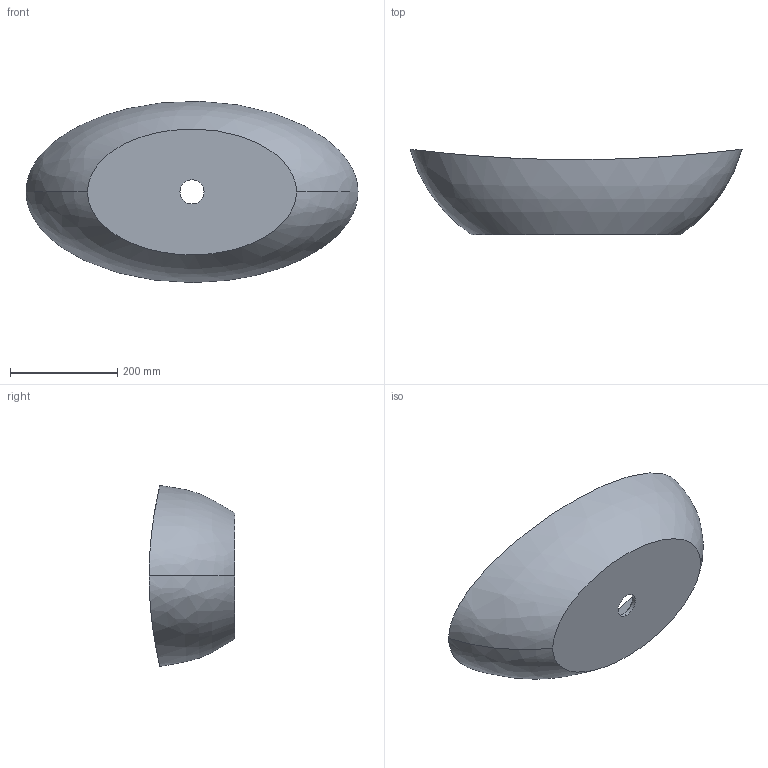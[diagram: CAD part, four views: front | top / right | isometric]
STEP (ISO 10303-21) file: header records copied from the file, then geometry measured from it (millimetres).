
FILE_DESCRIPTION (( 'STEP AP203' ), '1' );
FILE_NAME ('PW1.STEP', '2015-09-25T03:49:36', ( '旮僅薊襠http://www.deepbbs.org' ), ( 'http://www.deepbbs.org' ), 'SwSTEP 2.0', 'SolidWorks 2014', '' );
FILE_SCHEMA (( 'CONFIG_CONTROL_DESIGN' ));
Length unit declared in the file: millimetre
Products named in the file (1): PW1
Bounding box: 620 x 160 x 338.31 mm (x, y, z)
Volume: 3852670.1 mm3; surface area: 565277.9 mm2
Topology: 1 solids, 1 shells, 14 faces, 34 edges, 22 vertices
Faces by surface type: bspline 8, cylinder 3, cone 2, plane 1
Entity records: 5177 total; most frequent: CARTESIAN_POINT 4823, ORIENTED_EDGE 68, DIRECTION 38, EDGE_CURVE 34, VERTEX_POINT 22, B_SPLINE_CURVE_WITH_KNOTS 18, AXIS2_PLACEMENT_3D 17, EDGE_LOOP 16
